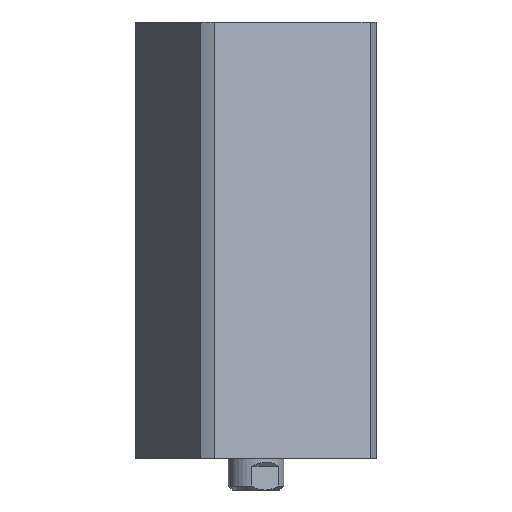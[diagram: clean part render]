
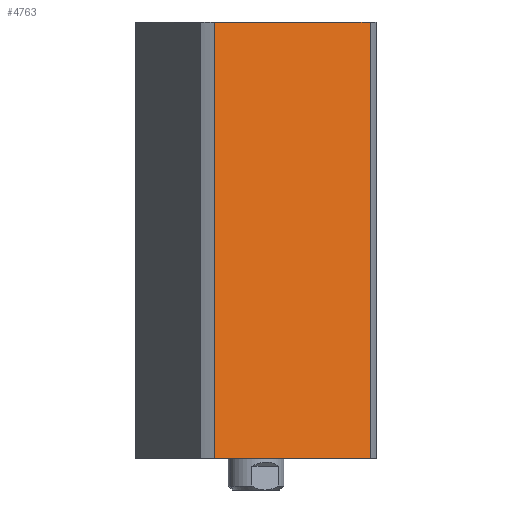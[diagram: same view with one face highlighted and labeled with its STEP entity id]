
A CAD part, left-side view. The second image highlights one B-rep face of the part: STEP entity #4763.
In plain terms, the highlighted planar face has unit normal (-0.924, -0.383, 0) as drawn and (1, 0, 0) by its records, which use the part's own axes.
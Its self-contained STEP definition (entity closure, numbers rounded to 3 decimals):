
#173 = EDGE_CURVE ( 'NONE', #2785, #1372, #4892, .T. ) ;
#344 = EDGE_CURVE ( 'NONE', #4307, #1372, #4525, .T. ) ;
#473 = CARTESIAN_POINT ( 'NONE',  ( 24., 21.166, -142. ) ) ;
#584 = ORIENTED_EDGE ( 'NONE', *, *, #2763, .F. ) ;
#1020 = AXIS2_PLACEMENT_3D ( 'NONE', #2770, #2176, #6530 ) ;
#1363 = CARTESIAN_POINT ( 'NONE',  ( 24., 24., 0. ) ) ;
#1372 = VERTEX_POINT ( 'NONE', #7267 ) ;
#1449 = LINE ( 'NONE', #6596, #4571 ) ;
#1687 = EDGE_CURVE ( 'NONE', #4336, #2785, #2033, .T. ) ;
#1841 = ORIENTED_EDGE ( 'NONE', *, *, #1687, .F. ) ;
#2033 = LINE ( 'NONE', #6866, #4773 ) ;
#2058 = ORIENTED_EDGE ( 'NONE', *, *, #344, .T. ) ;
#2176 = DIRECTION ( 'NONE',  ( -1., 0., 0. ) ) ;
#2234 = EDGE_LOOP ( 'NONE', ( #584, #2058, #5517, #1841 ) ) ;
#2649 = VECTOR ( 'NONE', #3349, 1000. ) ;
#2763 = EDGE_CURVE ( 'NONE', #4307, #4336, #1449, .T. ) ;
#2770 = CARTESIAN_POINT ( 'NONE',  ( 24., 24., 110. ) ) ;
#2785 = VERTEX_POINT ( 'NONE', #5370 ) ;
#2866 = DIRECTION ( 'NONE',  ( 0., 0., 1. ) ) ;
#3349 = DIRECTION ( 'NONE',  ( 0., 1., 0. ) ) ;
#3396 = CARTESIAN_POINT ( 'NONE',  ( 24., -21.166, 0. ) ) ;
#3445 = VECTOR ( 'NONE', #4235, 1000. ) ;
#4235 = DIRECTION ( 'NONE',  ( 0., 0., -1. ) ) ;
#4307 = VERTEX_POINT ( 'NONE', #3396 ) ;
#4336 = VERTEX_POINT ( 'NONE', #7736 ) ;
#4525 = LINE ( 'NONE', #1363, #2649 ) ;
#4571 = VECTOR ( 'NONE', #2866, 1000. ) ;
#4763 = ADVANCED_FACE ( 'NONE', ( #4846 ), #5925, .F. ) ;
#4773 = VECTOR ( 'NONE', #7503, 1000. ) ;
#4846 = FACE_OUTER_BOUND ( 'NONE', #2234, .T. ) ;
#4892 = LINE ( 'NONE', #473, #3445 ) ;
#5370 = CARTESIAN_POINT ( 'NONE',  ( 24., 21.166, 110. ) ) ;
#5517 = ORIENTED_EDGE ( 'NONE', *, *, #173, .F. ) ;
#5925 = PLANE ( 'NONE',  #1020 ) ;
#6530 = DIRECTION ( 'NONE',  ( 0., -1., 0. ) ) ;
#6596 = CARTESIAN_POINT ( 'NONE',  ( 24., -21.166, -142. ) ) ;
#6866 = CARTESIAN_POINT ( 'NONE',  ( 24., 24., 110. ) ) ;
#7267 = CARTESIAN_POINT ( 'NONE',  ( 24., 21.166, 0. ) ) ;
#7503 = DIRECTION ( 'NONE',  ( 0., 1., 0. ) ) ;
#7736 = CARTESIAN_POINT ( 'NONE',  ( 24., -21.166, 110. ) ) ;
